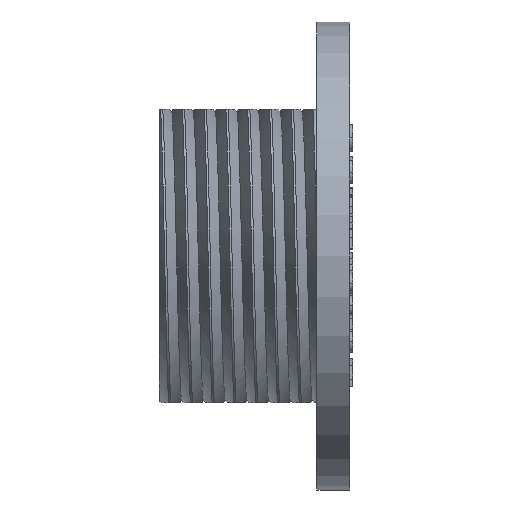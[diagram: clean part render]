
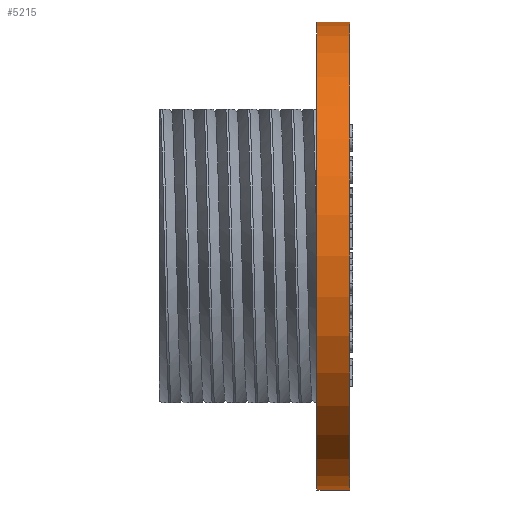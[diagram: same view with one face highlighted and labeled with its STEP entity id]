
A CAD part, left-side view. The second image highlights one B-rep face of the part: STEP entity #5215.
In plain terms, the highlighted cylindrical face has radius 21.5 mm (diameter 43 mm), a partial arc.
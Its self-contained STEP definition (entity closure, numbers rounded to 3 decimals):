
#101 = ORIENTED_EDGE ( 'NONE', *, *, #9233, .T. ) ;
#461 = EDGE_CURVE ( 'NONE', #647, #575, #10065, .T. ) ;
#575 = VERTEX_POINT ( 'NONE', #4765 ) ;
#647 = VERTEX_POINT ( 'NONE', #7904 ) ;
#1380 = EDGE_LOOP ( 'NONE', ( #9239, #13021, #101, #1915 ) ) ;
#1522 = VECTOR ( 'NONE', #9083, 1000. ) ;
#1566 = CARTESIAN_POINT ( 'NONE',  ( 0., 3., 21.5 ) ) ;
#1915 = ORIENTED_EDGE ( 'NONE', *, *, #461, .T. ) ;
#1960 = AXIS2_PLACEMENT_3D ( 'NONE', #3458, #10828, #4504 ) ;
#2232 = VECTOR ( 'NONE', #12764, 1000. ) ;
#2468 = AXIS2_PLACEMENT_3D ( 'NONE', #13444, #5021, #7158 ) ;
#3458 = CARTESIAN_POINT ( 'NONE',  ( 0., 3., 0. ) ) ;
#4504 = DIRECTION ( 'NONE',  ( 0., 0., 1. ) ) ;
#4636 = LINE ( 'NONE', #8015, #1522 ) ;
#4684 = FACE_OUTER_BOUND ( 'NONE', #1380, .T. ) ;
#4765 = CARTESIAN_POINT ( 'NONE',  ( 0., 0., 21.5 ) ) ;
#4891 = AXIS2_PLACEMENT_3D ( 'NONE', #12169, #9937, #5598 ) ;
#4979 = VERTEX_POINT ( 'NONE', #12002 ) ;
#5021 = DIRECTION ( 'NONE',  ( 0., -1., 0. ) ) ;
#5026 = LINE ( 'NONE', #6041, #2232 ) ;
#5164 = EDGE_CURVE ( 'NONE', #6960, #575, #5026, .T. ) ;
#5215 = ADVANCED_FACE ( 'NONE', ( #4684 ), #9981, .T. ) ;
#5598 = DIRECTION ( 'NONE',  ( 0., 0., 1. ) ) ;
#6041 = CARTESIAN_POINT ( 'NONE',  ( 0., 3., 21.5 ) ) ;
#6960 = VERTEX_POINT ( 'NONE', #1566 ) ;
#7158 = DIRECTION ( 'NONE',  ( 0., 0., -1. ) ) ;
#7904 = CARTESIAN_POINT ( 'NONE',  ( 0., 0., -21.5 ) ) ;
#8015 = CARTESIAN_POINT ( 'NONE',  ( 0., 3., -21.5 ) ) ;
#8195 = CIRCLE ( 'NONE', #1960, 21.5 ) ;
#9083 = DIRECTION ( 'NONE',  ( 0., -1., 0. ) ) ;
#9233 = EDGE_CURVE ( 'NONE', #4979, #647, #4636, .T. ) ;
#9239 = ORIENTED_EDGE ( 'NONE', *, *, #5164, .F. ) ;
#9937 = DIRECTION ( 'NONE',  ( 0., 1., 0. ) ) ;
#9981 = CYLINDRICAL_SURFACE ( 'NONE', #2468, 21.5 ) ;
#10065 = CIRCLE ( 'NONE', #4891, 21.5 ) ;
#10828 = DIRECTION ( 'NONE',  ( 0., 1., 0. ) ) ;
#11785 = EDGE_CURVE ( 'NONE', #4979, #6960, #8195, .T. ) ;
#12002 = CARTESIAN_POINT ( 'NONE',  ( 0., 3., -21.5 ) ) ;
#12169 = CARTESIAN_POINT ( 'NONE',  ( 0., 0., 0. ) ) ;
#12764 = DIRECTION ( 'NONE',  ( 0., -1., 0. ) ) ;
#13021 = ORIENTED_EDGE ( 'NONE', *, *, #11785, .F. ) ;
#13444 = CARTESIAN_POINT ( 'NONE',  ( 0., 3., 0. ) ) ;
